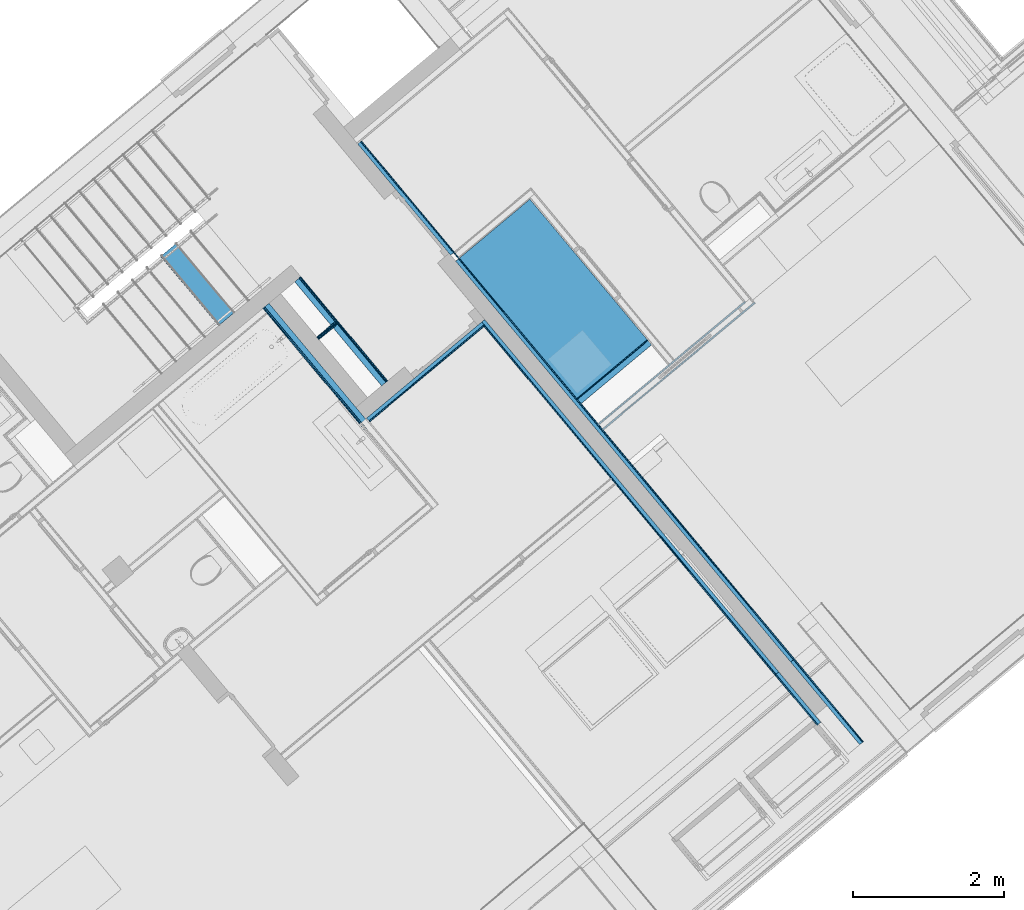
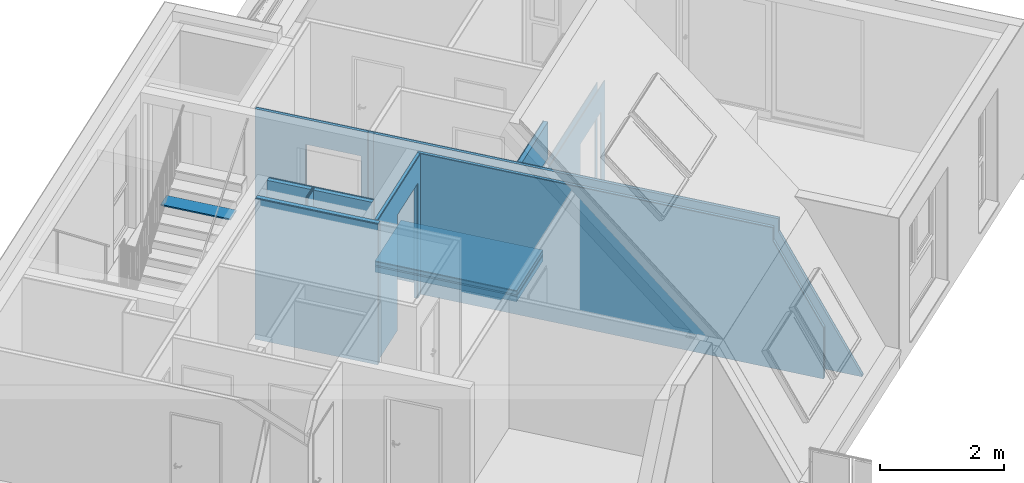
# One storey, part 29 of 61: 22 building element parts, 3 openings, 10 elements without a shape of their own, plus 2 elements that do not belong to this part.
"""IFC4 building model written with IfcOpenShell, lengths in metres."""

from ifc_helpers import new_model, entity, si_unit, converted_unit, derived_unit, direction, frame, origin_with_axes, place, context, subcontext, project, spatial, polygons, material, type_object, element, aggregate, save


model = new_model("IFC4")

# Units and contexts
model_context = context("Model", 3, precision=1e-05, world=origin_with_axes(), true_north=direction((0.0, 1.0)))
body_context = subcontext(model_context, "Body", "Model", "MODEL_VIEW")
ifc_project = project(units=[si_unit("LENGTHUNIT", "METRE"), si_unit("AREAUNIT", "SQUARE_METRE"), si_unit("VOLUMEUNIT", "CUBIC_METRE"), converted_unit("PLANEANGLEUNIT", "DEGREE", entity("IfcPlaneAngleMeasure", 0.0174532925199), si_unit("PLANEANGLEUNIT", "RADIAN"), dimensions=[0, 0, 0, 0, 0, 0, 0]), converted_unit("TIMEUNIT", "Year", entity("IfcTimeMeasure", 31556926.0), si_unit("TIMEUNIT", "SECOND"), dimensions=[0, 0, 1, 0, 0, 0, 0]), si_unit("MASSUNIT", "GRAM", prefix="KILO"), si_unit("THERMODYNAMICTEMPERATUREUNIT", "DEGREE_CELSIUS"), si_unit("LUMINOUSINTENSITYUNIT", "LUMEN"), si_unit("ENERGYUNIT", "JOULE", prefix="MEGA"), derived_unit("THERMALCONDUCTANCEUNIT", [(si_unit("POWERUNIT", "WATT"), 1), (si_unit("LENGTHUNIT", "METRE"), -1), (si_unit("THERMODYNAMICTEMPERATUREUNIT", "KELVIN"), -1)]), derived_unit("SPECIFICHEATCAPACITYUNIT", [(si_unit("ENERGYUNIT", "JOULE"), 1), (si_unit("MASSUNIT", "GRAM", prefix="KILO"), -1), (si_unit("THERMODYNAMICTEMPERATUREUNIT", "KELVIN"), -1)]), derived_unit("MASSDENSITYUNIT", [(si_unit("MASSUNIT", "GRAM", prefix="KILO"), 1), (si_unit("VOLUMEUNIT", "CUBIC_METRE"), -1)])], contexts=[model_context])

# Site, building, storey
site_placement = place(None, frame((-0.00153261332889, -0.00661245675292, 0.0), z_axis=(0.0, 0.0, 1.0), x_axis=(1.0, 0.0, 0.0)))
site = spatial("IfcSite", under=ifc_project, at=site_placement, Name="Gelände", CompositionType="ELEMENT")
building_placement = place(site_placement, origin_with_axes())
building = spatial("IfcBuilding", under=site, at=building_placement, Name="Gebäude", CompositionType="ELEMENT")
storey_placement = place(building_placement, frame((0.0, 0.0, 5.7), z_axis=(0.0, 0.0, 1.0), x_axis=(1.0, 0.0, 0.0)))
storey = spatial("IfcBuildingStorey", under=building, at=storey_placement, Name="DG1", CompositionType="ELEMENT", Elevation=5.7)

# Wall, building element parts
wall_type_1 = type_object("IfcWallType", Name="LB 10,5 cm doppelte Vorsatzschale Bad 105", PredefinedType="NOTDEFINED")
wall_1_placement = place(storey_placement, frame((0.371124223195, 22.44598682, 0.0), z_axis=(0.0, 0.0, 1.0), x_axis=(0.641209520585, -0.767365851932, 0.0)))
wall_1 = element("IfcWall", 1, at=wall_1_placement, inside=storey, type_object=wall_type_1, Name="Wand-004", PredefinedType="NOTDEFINED")
ifc_material_1 = material(Name="Mineralwolle weich")
building_element_part_1_placement = place(wall_1_placement, origin_with_axes())
building_element_part_1 = element("IfcBuildingElementPart", 2, at=building_element_part_1_placement, material=ifc_material_1, Name="Mineralwolle weich", PredefinedType="NOTDEFINED", context=body_context, shape_type="Tessellation", body=[
    polygons([(0.0, 0.0, 2.76), (0.0, -0.075, 2.76), (2.10114517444, -0.075, 2.76), (2.10114517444, 0.0, 2.76), (0.0, 0.0, 0.0), (0.0, -0.075, 0.0), (2.10114517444, -0.075, 0.0), (2.10114517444, 0.0, 0.0)], [[[1, 2, 3, 4]], [[5, 6, 2, 1]], [[2, 6, 7, 3]], [[8, 4, 3, 7]], [[5, 1, 4, 8]], [[6, 5, 8, 7]]], closed=True),
])
ifc_material_2 = material(Name="Gipskarton")
building_element_part_2_placement = place(wall_1_placement, origin_with_axes())
building_element_part_2 = element("IfcBuildingElementPart", 3, at=building_element_part_2_placement, material=ifc_material_2, Name="Gipskarton", PredefinedType="NOTDEFINED", context=body_context, shape_type="Tessellation", body=[
    polygons([(0.0, -0.075, 2.76), (0.0, -0.09, 2.76), (2.10114517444, -0.09, 2.76), (2.10114517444, -0.075, 2.76), (0.0, -0.075, 0.0), (0.0, -0.09, 0.0), (2.10114517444, -0.09, 0.0), (2.10114517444, -0.075, 0.0)], [[[1, 2, 3, 4]], [[5, 6, 2, 1]], [[2, 6, 7, 3]], [[8, 4, 3, 7]], [[5, 1, 4, 8]], [[6, 5, 8, 7]]], closed=True),
])
building_element_part_3_placement = place(wall_1_placement, origin_with_axes())
building_element_part_3 = element("IfcBuildingElementPart", 4, at=building_element_part_3_placement, material=ifc_material_2, Name="Gipskarton", PredefinedType="NOTDEFINED", context=body_context, shape_type="Tessellation", body=[
    polygons([(0.0, -0.09, 2.76), (0.0, -0.105, 2.76), (2.10114517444, -0.105, 2.76), (2.10114517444, -0.09, 2.76), (0.0, -0.09, 0.0), (0.0, -0.105, 0.0), (2.10114517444, -0.105, 0.0), (2.10114517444, -0.09, 0.0)], [[[1, 2, 3, 4]], [[5, 6, 2, 1]], [[2, 6, 7, 3]], [[8, 4, 3, 7]], [[5, 1, 4, 8]], [[6, 5, 8, 7]]], closed=True),
])
aggregate(wall_1, [building_element_part_1, building_element_part_2, building_element_part_3])

wall_type_2 = type_object("IfcWallType", Name="LB 9,0 cm einfache Vorsatzschale  90", PredefinedType="NOTDEFINED")
wall_2_placement = place(storey_placement, frame((4.51654083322, 21.1123791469, 0.0), z_axis=(0.0, 0.0, 1.0), x_axis=(0.767365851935, 0.641209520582, 0.0)))
wall_2 = element("IfcWall", 5, at=wall_2_placement, inside=storey, type_object=wall_type_2, Name="Wand-006", PredefinedType="NOTDEFINED")
building_element_part_4_placement = place(wall_2_placement, origin_with_axes())
building_element_part_4 = element("IfcBuildingElementPart", 6, at=building_element_part_4_placement, material=ifc_material_2, Name="Gipskarton", PredefinedType="NOTDEFINED", context=body_context, shape_type="Tessellation", body=[
    polygons([(1.21990157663, 0.075, 0.0), (-1.2954412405e-06, 0.075, 0.0), (-1.55452949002e-06, 0.09, 0.0), (1.21990157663, 0.09, 0.0), (1.21990157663, 0.075, 2.76), (-1.2954412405e-06, 0.075, 2.76), (-1.55452949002e-06, 0.09, 2.76), (1.21990157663, 0.09, 2.76)], [[[1, 2, 3, 4]], [[5, 6, 2, 1]], [[3, 2, 6, 7]], [[4, 3, 7, 8]], [[4, 8, 5, 1]], [[8, 7, 6, 5]]], closed=True),
])
building_element_part_5_placement = place(wall_2_placement, origin_with_axes())
building_element_part_5 = element("IfcBuildingElementPart", 7, at=building_element_part_5_placement, material=ifc_material_1, Name="Mineralwolle weich", PredefinedType="NOTDEFINED", context=body_context, shape_type="Tessellation", body=[
    polygons([(1.21990157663, 0.075, 0.0), (1.21990157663, 0.0, 0.0), (0.0, 0.0, 0.0), (-1.2954412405e-06, 0.075, 0.0), (1.21990157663, 0.075, 2.76), (1.21990157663, 0.0, 2.76), (0.0, 0.0, 2.76), (-1.2954412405e-06, 0.075, 2.76)], [[[1, 2, 3, 4]], [[2, 1, 5, 6]], [[2, 6, 7, 3]], [[8, 4, 3, 7]], [[5, 1, 4, 8]], [[6, 5, 8, 7]]], closed=True),
])
aggregate(wall_2, [building_element_part_4, building_element_part_5])

# Wall, opening, building element parts
wall_type_3 = type_object("IfcWallType", Name="IW LB 01 Leichtbautrennwand einfach 10,5 cm 105", PredefinedType="NOTDEFINED")
wall_3_placement = place(storey_placement, frame((4.80817361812, 20.7633806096, 0.0), z_axis=(0.0, 0.0, 1.0), x_axis=(0.767768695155, 0.640727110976, 0.0)))
wall_3 = element("IfcWall", 8, at=wall_3_placement, inside=storey, type_object=wall_type_3, Name="Wand-012", PredefinedType="NOTDEFINED")
opening_1_placement = place(wall_3_placement, frame((1.95916013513, 0.0, 0.22), z_axis=(0.0, 0.0, 1.0), x_axis=(1.0, 0.0, 0.0)))
element("IfcOpeningElement", 9, at=opening_1_placement, cuts=wall_3, Name="Tür-001", context=body_context, identifier="Reference", shape_type="Tessellation", body=[
    polygons([(-0.48, -1.29426735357, -0.22), (-0.48, -1.29426735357, 2.03), (-0.48, 1.39926735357, 2.03), (-0.48, 1.39926735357, -0.22), (-0.48, 0.09, 2.0), (-0.48, 0.015, 2.0), (-0.48, 0.015, 0.0), (-0.48, 0.09, 0.0), (0.48, -1.29426735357, -0.22), (0.48, -1.29426735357, 2.03), (0.48, 1.39926735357, 2.03), (0.48, 1.39926735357, -0.22), (-1.44, 0.09, 2.0), (-1.44, 0.015, 2.0), (-1.44, 0.015, 0.0), (-1.44, 0.09, 0.0)], [[[1, 2, 3, 4], [5, 6, 7, 8]], [[1, 9, 10, 2]], [[2, 10, 11, 3]], [[11, 12, 4, 3]], [[9, 1, 4, 12]], [[6, 5, 13, 14]], [[7, 6, 14, 15]], [[8, 7, 15, 16]], [[5, 8, 16, 13]], [[10, 9, 12, 11]], [[14, 13, 16, 15]]], closed=True),
])
building_element_part_6_placement = place(wall_3_placement, origin_with_axes())
building_element_part_6 = element("IfcBuildingElementPart", 10, at=building_element_part_6_placement, material=ifc_material_2, Name="Gipskarton", PredefinedType="NOTDEFINED", context=body_context, shape_type="Tessellation", body=[
    polygons([(1.47916013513, 0.09, 0.22), (1.47916013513, 0.09, 2.25), (2.43916013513, 0.09, 2.25), (2.43916013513, 0.09, 0.22), (2.43916011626, 0.09, 0.0), (2.53890847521, 0.09, 0.0), (2.53890847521, 0.09, 2.76), (-5.81187822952e-05, 0.09, 2.76), (-5.81187822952e-05, 0.09, 0.0), (1.47916013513, 0.09, 0.0), (1.47916013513, 0.104999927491, 0.22), (1.47916013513, 0.104999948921, 2.25), (2.43916013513, 0.104999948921, 2.25), (2.43916013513, 0.104999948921, 0.22), (2.43916011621, 0.104999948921, 0.0), (2.53889904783, 0.105, 0.0), (2.53889904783, 0.105, 2.76), (-6.78052460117e-05, 0.105, 2.76), (-6.78052460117e-05, 0.105, 0.0), (1.47916013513, 0.104999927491, 0.0)], [[[1, 2, 3, 4, 5, 6, 7, 8, 9, 10]], [[2, 1, 11, 12]], [[3, 2, 12, 13]], [[4, 3, 13, 14]], [[4, 14, 15, 5]], [[15, 16, 6, 5]], [[16, 17, 7, 6]], [[17, 18, 8, 7]], [[19, 9, 8, 18]], [[10, 9, 19, 20]], [[11, 1, 10, 20]], [[12, 11, 20, 19, 18, 17, 16, 15, 14, 13]]], closed=True),
])
building_element_part_7_placement = place(wall_3_placement, origin_with_axes())
building_element_part_7 = element("IfcBuildingElementPart", 11, at=building_element_part_7_placement, material=ifc_material_2, Name="Gipskarton", PredefinedType="NOTDEFINED", context=body_context, shape_type="Tessellation", body=[
    polygons([(1.47916013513, 0.0, 0.22), (1.47916013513, 0.0, 2.25), (2.43916013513, 0.0, 2.25), (2.43916013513, 0.0, 0.22), (2.43916011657, 0.0, 0.0), (2.62896505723, 0.0, 0.0), (2.62896505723, 0.0, 2.76), (0.0, 0.0, 2.76), (0.0, 0.0, 0.0), (1.47916013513, 0.0, 0.0), (1.47916013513, 0.015, 0.22), (1.47916013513, 0.015, 2.25), (2.43916013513, 0.015, 2.25), (2.43916013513, 0.015, 0.22), (2.43916011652, 0.015, 0.0), (2.62895562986, 0.015, 0.0), (2.62895562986, 0.015, 2.76), (-9.68646371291e-06, 0.015, 2.76), (-9.68646371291e-06, 0.015, 0.0), (1.47916013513, 0.015, 0.0)], [[[1, 2, 3, 4, 5, 6, 7, 8, 9, 10]], [[2, 1, 11, 12]], [[3, 2, 12, 13]], [[4, 3, 13, 14]], [[4, 14, 15, 5]], [[15, 16, 6, 5]], [[16, 17, 7, 6]], [[17, 18, 8, 7]], [[19, 9, 8, 18]], [[10, 9, 19, 20]], [[11, 1, 10, 20]], [[12, 11, 20, 19, 18, 17, 16, 15, 14, 13]]], closed=True),
])
aggregate(wall_3, [building_element_part_6, building_element_part_7])

wall_type_4 = type_object("IfcWallType", Name="LB 6,5 cm einfach Vorsatzschale 65", PredefinedType="NOTDEFINED")
wall_4_placement = place(storey_placement, frame((3.22700750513, 22.1386079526, 0.0), z_axis=(0.0, 0.0, 1.0), x_axis=(-0.767669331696, -0.64084615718, 0.0)))
wall_4 = element("IfcWall", 12, at=wall_4_placement, inside=storey, type_object=wall_type_4, Name="Wand-005", PredefinedType="NOTDEFINED")
opening_2_placement = place(wall_4_placement, frame((0.603737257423, 0.0, 0.22), z_axis=(0.0, 0.0, 1.0), x_axis=(1.0, 0.0, 0.0)))
element("IfcOpeningElement", 13, at=opening_2_placement, cuts=wall_4, Name="Tür-001", context=body_context, identifier="Reference", shape_type="Tessellation", body=[
    polygons([(-0.475, -1.03980321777, 2.05), (-0.475, -1.03980321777, -0.22), (0.475, -1.03980321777, -0.22), (0.475, -1.03980321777, 2.05), (-0.475, 0.974803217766, 2.05), (-0.475, 0.974803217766, -0.22), (0.475, 0.974803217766, -0.22), (0.475, 0.974803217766, 2.05)], [[[1, 2, 3, 4]], [[5, 6, 2, 1]], [[6, 7, 3, 2]], [[7, 8, 4, 3]], [[8, 5, 1, 4]], [[7, 6, 5, 8]]], closed=True),
])
building_element_part_8_placement = place(wall_4_placement, origin_with_axes())
building_element_part_8 = element("IfcBuildingElementPart", 14, at=building_element_part_8_placement, material=ifc_material_2, Name="Gipskarton", PredefinedType="NOTDEFINED", context=body_context, shape_type="Tessellation", body=[
    polygons([(1.07873725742, 0.0, 0.0), (1.07873725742, 0.0, 2.27), (0.128737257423, 0.0, 2.27), (0.128737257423, 0.0, 0.0), (0.0, 0.0, 0.0), (0.0, 0.0, 2.76), (1.97944404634, 0.0, 2.76), (1.97944404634, 0.0, 0.0), (1.07873725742, -0.015, 0.0), (1.07873725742, -0.015, 2.27), (0.128737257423, -0.015, 2.27), (0.128737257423, -0.015, 0.0), (-1.60318478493e-08, -0.015, 0.0), (-1.60318478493e-08, -0.015, 2.76), (1.97944404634, -0.015, 2.76), (1.97944404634, -0.015, 0.0)], [[[1, 2, 3, 4, 5, 6, 7, 8]], [[2, 1, 9, 10]], [[3, 2, 10, 11]], [[4, 3, 11, 12]], [[4, 12, 13, 5]], [[13, 14, 6, 5]], [[7, 6, 14, 15]], [[7, 15, 16, 8]], [[9, 1, 8, 16]], [[10, 9, 16, 15, 14, 13, 12, 11]]], closed=True),
])
building_element_part_9_placement = place(wall_4_placement, origin_with_axes())
building_element_part_9 = element("IfcBuildingElementPart", 15, at=building_element_part_9_placement, material=ifc_material_1, Name="Mineralwolle weich", PredefinedType="NOTDEFINED", context=body_context, shape_type="Tessellation", body=[
    polygons([(1.07873725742, -0.015, 0.0), (1.07873725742, -0.015, 2.27), (0.128737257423, -0.015, 2.27), (0.128737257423, -0.015, 0.0), (-0.0150000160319, -0.015, 0.0), (-0.0150000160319, -0.015, 2.76), (1.97944404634, -0.015, 2.76), (1.97944404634, -0.015, 0.0), (1.07873725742, -0.065, 0.0), (1.07873725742, -0.065, 2.27), (0.128737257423, -0.065, 2.27), (0.128737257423, -0.065, 0.0), (-0.0150000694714, -0.065, 0.0), (-0.0150000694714, -0.065, 2.76), (1.97944404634, -0.065, 2.76), (1.97944404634, -0.065, 0.0)], [[[1, 2, 3, 4, 5, 6, 7, 8]], [[2, 1, 9, 10]], [[3, 2, 10, 11]], [[4, 3, 11, 12]], [[4, 12, 13, 5]], [[13, 14, 6, 5]], [[7, 6, 14, 15]], [[7, 15, 16, 8]], [[9, 1, 8, 16]], [[10, 9, 16, 15, 14, 13, 12, 11]]], closed=True),
])
aggregate(wall_4, [building_element_part_8, building_element_part_9])

# Wall, building element parts
wall_type_5 = type_object("IfcWallType", Name="LB Dreifach Vorsatzschale Schacht 45", PredefinedType="NOTDEFINED")
wall_5_placement = place(storey_placement, frame((1.03476523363, 21.9638652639, 0.0), z_axis=(0.0, 0.0, 1.0), x_axis=(0.767670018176, 0.640845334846, 0.0)))
wall_5 = element("IfcWall", 16, at=wall_5_placement, inside=storey, type_object=wall_type_5, Name="Wand-002", PredefinedType="NOTDEFINED")
building_element_part_10_placement = place(wall_5_placement, origin_with_axes())
building_element_part_10 = element("IfcBuildingElementPart", 17, at=building_element_part_10_placement, material=ifc_material_2, Name="Gipskarton", PredefinedType="NOTDEFINED", context=body_context, shape_type="Tessellation", body=[
    polygons([(0.320121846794, 0.03, 0.0), (0.0, 0.03, 0.0), (0.0, 0.045, 0.0), (0.320121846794, 0.045, 0.0), (0.320121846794, 0.03, 2.76), (0.0, 0.03, 2.76), (0.0, 0.045, 2.76), (0.320121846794, 0.045, 2.76)], [[[1, 2, 3, 4]], [[5, 6, 2, 1]], [[3, 2, 6, 7]], [[4, 3, 7, 8]], [[4, 8, 5, 1]], [[8, 7, 6, 5]]], closed=True),
])
building_element_part_11_placement = place(wall_5_placement, origin_with_axes())
building_element_part_11 = element("IfcBuildingElementPart", 18, at=building_element_part_11_placement, material=ifc_material_2, Name="Gipskarton", PredefinedType="NOTDEFINED", context=body_context, shape_type="Tessellation", body=[
    polygons([(0.320121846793, 0.015, 0.0), (0.0, 0.015, 0.0), (0.0, 0.03, 0.0), (0.320121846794, 0.03, 0.0), (0.320121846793, 0.015, 2.76), (0.0, 0.015, 2.76), (0.0, 0.03, 2.76), (0.320121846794, 0.03, 2.76)], [[[1, 2, 3, 4]], [[5, 6, 2, 1]], [[3, 2, 6, 7]], [[4, 3, 7, 8]], [[4, 8, 5, 1]], [[8, 7, 6, 5]]], closed=True),
])
building_element_part_12_placement = place(wall_5_placement, origin_with_axes())
building_element_part_12 = element("IfcBuildingElementPart", 19, at=building_element_part_12_placement, material=ifc_material_2, Name="Gipskarton", PredefinedType="NOTDEFINED", context=body_context, shape_type="Tessellation", body=[
    polygons([(0.320121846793, 0.0, 0.0), (0.0, 0.0, 0.0), (0.0, 0.015, 0.0), (0.320121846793, 0.015, 0.0), (0.320121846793, 0.0, 2.76), (0.0, 0.0, 2.76), (0.0, 0.015, 2.76), (0.320121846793, 0.015, 2.76)], [[[1, 2, 3, 4]], [[5, 6, 2, 1]], [[3, 2, 6, 7]], [[4, 3, 7, 8]], [[4, 8, 5, 1]], [[8, 7, 6, 5]]], closed=True),
])
aggregate(wall_5, [building_element_part_10, building_element_part_11, building_element_part_12])

wall_6_placement = place(storey_placement, frame((3.22700750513, 22.1386079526, 0.0), z_axis=(0.0, 0.0, 1.0), x_axis=(0.640845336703, -0.767670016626, 0.0)))
wall_6 = element("IfcWall", 20, at=wall_6_placement, inside=storey, type_object=wall_type_4, Name="Wand-005", PredefinedType="NOTDEFINED")
building_element_part_13_placement = place(wall_6_placement, origin_with_axes())
building_element_part_13 = element("IfcBuildingElementPart", 21, at=building_element_part_13_placement, material=ifc_material_1, Name="Mineralwolle weich", PredefinedType="NOTDEFINED", context=body_context, shape_type="Tessellation", body=[
    polygons([(6.03135542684, 0.065, 2.76), (6.03135542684, 0.065, 2.5082540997), (6.90221355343, 0.065, 0.999884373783), (6.90221355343, 0.065, 0.0), (-0.0650000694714, 0.065, 0.0), (-0.0650000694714, 0.065, 2.76), (6.03140473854, 0.015, 2.76), (6.03140473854, 0.015, 2.50825763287), (6.90221355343, 0.015, 0.999973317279), (6.90221355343, 0.015, 0.0), (-0.0650000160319, 0.015, 0.0), (-0.0650000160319, 0.015, 2.76)], [[[1, 2, 3, 4, 5, 6]], [[2, 1, 7, 8]], [[9, 3, 2, 8]], [[3, 9, 10, 4]], [[10, 11, 5, 4]], [[6, 5, 11, 12]], [[7, 1, 6, 12]], [[8, 7, 12, 11, 10, 9]]], closed=True),
])
building_element_part_14_placement = place(wall_6_placement, origin_with_axes())
building_element_part_14 = element("IfcBuildingElementPart", 22, at=building_element_part_14_placement, material=ifc_material_2, Name="Gipskarton", PredefinedType="NOTDEFINED", context=body_context, shape_type="Tessellation", body=[
    polygons([(6.03140473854, 0.015, 2.76), (6.03140473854, 0.015, 2.50825763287), (6.90221355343, 0.015, 0.999973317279), (6.90221355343, 0.015, 0.0), (-0.0150000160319, 0.015, 0.0), (-0.0150000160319, 0.015, 2.76), (6.03141953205, 0.0, 2.76), (6.03141953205, 0.0, 2.50825869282), (6.90221355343, 0.0, 1.00000000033), (6.90221355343, 0.0, 0.0), (-0.015, 0.0, 0.0), (-0.015, 0.0, 2.76)], [[[1, 2, 3, 4, 5, 6]], [[2, 1, 7, 8]], [[9, 3, 2, 8]], [[3, 9, 10, 4]], [[10, 11, 5, 4]], [[6, 5, 11, 12]], [[7, 1, 6, 12]], [[8, 7, 12, 11, 10, 9]]], closed=True),
])
aggregate(wall_6, [building_element_part_13, building_element_part_14])

wall_7_placement = place(storey_placement, frame((0.71304114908, 22.7317569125, 0.0), z_axis=(0.0, 0.0, 1.0), x_axis=(0.640845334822, -0.767670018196, 0.0)))
wall_7 = element("IfcWall", 23, at=wall_7_placement, inside=storey, type_object=wall_type_1, Name="Wand-004", PredefinedType="NOTDEFINED")
building_element_part_15_placement = place(wall_7_placement, origin_with_axes())
building_element_part_15 = element("IfcBuildingElementPart", 24, at=building_element_part_15_placement, material=ifc_material_2, Name="Gipskarton", PredefinedType="NOTDEFINED", context=body_context, shape_type="Tessellation", body=[
    polygons([(1.80140621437, 0.09, 0.0), (0.0, 0.09, 0.0), (0.0, 0.105, 0.0), (1.80140621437, 0.105, 0.0), (1.80140621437, 0.09, 2.76), (0.0, 0.09, 2.76), (0.0, 0.105, 2.76), (1.80140621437, 0.105, 2.76)], [[[1, 2, 3, 4]], [[5, 6, 2, 1]], [[3, 2, 6, 7]], [[4, 3, 7, 8]], [[4, 8, 5, 1]], [[8, 7, 6, 5]]], closed=True),
])
building_element_part_16_placement = place(wall_7_placement, origin_with_axes())
building_element_part_16 = element("IfcBuildingElementPart", 25, at=building_element_part_16_placement, material=ifc_material_2, Name="Gipskarton", PredefinedType="NOTDEFINED", context=body_context, shape_type="Tessellation", body=[
    polygons([(1.80140621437, 0.075, 0.0), (0.0, 0.075, 0.0), (0.0, 0.09, 0.0), (1.80140621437, 0.09, 0.0), (1.80140621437, 0.075, 2.76), (0.0, 0.075, 2.76), (0.0, 0.09, 2.76), (1.80140621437, 0.09, 2.76)], [[[1, 2, 3, 4]], [[5, 6, 2, 1]], [[3, 2, 6, 7]], [[4, 3, 7, 8]], [[4, 8, 5, 1]], [[8, 7, 6, 5]]], closed=True),
])
building_element_part_17_placement = place(wall_7_placement, origin_with_axes())
building_element_part_17 = element("IfcBuildingElementPart", 26, at=building_element_part_17_placement, material=ifc_material_1, Name="Mineralwolle weich", PredefinedType="NOTDEFINED", context=body_context, shape_type="Tessellation", body=[
    polygons([(0.750662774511, 0.075, 0.0), (0.750662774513, 0.0, 0.0), (0.0, 0.0, 0.0), (0.0, 0.075, 0.0), (0.750662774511, 0.075, 2.76), (0.750662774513, 0.0, 2.76), (0.0, 0.0, 2.76), (0.0, 0.075, 2.76)], [[[1, 2, 3, 4]], [[2, 1, 5, 6]], [[2, 6, 7, 3]], [[8, 4, 3, 7]], [[5, 1, 4, 8]], [[6, 5, 8, 7]]], closed=True),
    polygons([(1.80140621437, 0.075, 0.0), (1.80140621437, 0.0, 0.0), (0.795662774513, 0.0, 0.0), (0.795662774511, 0.075, 0.0), (1.80140621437, 0.075, 2.76), (1.80140621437, 0.0, 2.76), (0.795662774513, 0.0, 2.76), (0.795662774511, 0.075, 2.76)], [[[1, 2, 3, 4]], [[2, 1, 5, 6]], [[2, 6, 7, 3]], [[8, 4, 3, 7]], [[5, 1, 4, 8]], [[6, 5, 8, 7]]], closed=True),
])
aggregate(wall_7, [building_element_part_15, building_element_part_16, building_element_part_17])

# Space
space_1_placement = place(storey_placement, frame((0.280300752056, 22.6307267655, 0.22), z_axis=(0.0, 0.0, 1.0), x_axis=(-0.641244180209, 0.767336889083, 0.0)))
space_1 = spatial("IfcSpace", under=storey, at=space_1_placement, CompositionType="ELEMENT", PredefinedType="NOTDEFINED")

# Stair, building element part
stair_type = type_object("IfcStairType", Name="Treppentyp", PredefinedType="NOTDEFINED")
stair_placement = place(space_1_placement, frame((2.55980055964, -0.50704333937, -0.17), z_axis=(0.0, 0.0, 1.0), x_axis=(-0.641244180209, -0.767336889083, 0.0)))
stair = element("IfcStair", 27, at=stair_placement, inside=space_1, type_object=stair_type, Name="Treppe - 001", PredefinedType="NOTDEFINED")
ifc_material_3 = material(Name="BEKLEIDUNG")
building_element_part_18_placement = place(stair_placement, origin_with_axes())
building_element_part_18 = element("IfcBuildingElementPart", 28, at=building_element_part_18_placement, material=ifc_material_3, Name="BEKLEIDUNG", PredefinedType="NOTDEFINED", context=body_context, shape_type="Tessellation", body=[
    polygons([(-0.0964830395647, -1.85268773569, 2.63088235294), (0.672968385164, -2.77352675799, 2.63088235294), (0.672968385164, -2.77352675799, 2.65588235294), (-0.0964830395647, -1.85268773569, 2.65588235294), (0.115839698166, -1.67527123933, 2.63088235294), (0.885291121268, -2.59611026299, 2.63088235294), (0.885291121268, -2.59611026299, 2.65588235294), (0.115839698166, -1.67527123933, 2.65588235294)], [[[1, 2, 3, 4]], [[1, 5, 6, 2]], [[2, 6, 7, 3]], [[4, 3, 7, 8]], [[5, 1, 4, 8]], [[6, 5, 8, 7]]], closed=True),
])
aggregate(stair, [building_element_part_18])

# Space
space_2_placement = place(storey_placement, frame((2.89957040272, 23.0457904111, 0.22), z_axis=(0.0, 0.0, 1.0), x_axis=(0.640845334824, -0.767670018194, 0.0)))
space_2 = spatial("IfcSpace", under=storey, at=space_2_placement, CompositionType="ELEMENT", PredefinedType="NOTDEFINED")

# Wall, opening, building element parts
wall_8_placement = place(space_2_placement, frame((-2.12019097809, 0.0, -0.22), z_axis=(0.0, 0.0, 1.0), x_axis=(0.999999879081, 0.000491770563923, 0.0)))
wall_8 = element("IfcWall", 29, at=wall_8_placement, inside=space_2, type_object=wall_type_4, Name="Wand-005", PredefinedType="NOTDEFINED")
opening_3_placement = place(wall_8_placement, frame((1.42988718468, 0.0, 0.22), z_axis=(0.0, 0.0, 1.0), x_axis=(1.0, 0.0, 0.0)))
element("IfcOpeningElement", 30, at=opening_3_placement, cuts=wall_8, Name="Tür-001", context=body_context, identifier="Reference", shape_type="Tessellation", body=[
    polygons([(-0.475, -5.22658911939, 2.05), (-0.475, -5.22658911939, -0.22), (0.475, -5.22658911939, -0.22), (0.475, -5.22658911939, 2.05), (-0.475, 5.16158911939, 2.05), (-0.475, 5.16158911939, -0.22), (0.475, 5.16158911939, -0.22), (0.475, 5.16158911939, 2.05)], [[[1, 2, 3, 4]], [[5, 6, 2, 1]], [[6, 7, 3, 2]], [[7, 8, 4, 3]], [[8, 5, 1, 4]], [[7, 6, 5, 8]]], closed=True),
])
building_element_part_19_placement = place(wall_8_placement, origin_with_axes())
building_element_part_19 = element("IfcBuildingElementPart", 31, at=building_element_part_19_placement, material=ifc_material_2, Name="Gipskarton", PredefinedType="NOTDEFINED", context=body_context, shape_type="Tessellation", body=[
    polygons([(0.954887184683, 0.0, 2.27), (0.954887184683, 0.0, 0.22), (0.954887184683, 0.0, 0.0), (0.09, 0.0, 0.0), (0.09, 0.0, 2.76), (9.05752407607, 0.0, 2.76), (9.05752407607, 0.0, 2.5082540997), (10.4880353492, 0.0, 0.030536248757), (10.4880353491, 0.0, 0.0), (1.90488718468, 0.0, 0.0), (1.90488718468, 0.0, 0.22), (1.90488718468, 0.0, 2.27), (0.954887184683, -0.015, 2.27), (0.954887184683, -0.015, 0.0), (0.954887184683, -0.000469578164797, 0.0), (0.954887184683, -0.000469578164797, 0.22), (0.09, -0.015, 0.0), (0.09, -0.015, 2.76), (9.05753149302, -0.015, 2.76), (9.05753149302, -0.015, 2.50825515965), (10.4880353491, -0.015, 0.0305501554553), (10.4880353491, -0.015, 0.0), (1.90488718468, -0.015, 0.0), (1.90488718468, -0.015, 0.22), (1.90488718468, -0.015, 2.27)], [[[1, 2, 3, 4, 5, 6, 7, 8, 9, 10, 11, 12]], [[2, 1, 13, 14, 15, 16]], [[16, 15, 3, 2]], [[15, 14, 17, 4, 3]], [[17, 18, 5, 4]], [[6, 5, 18, 19]], [[6, 19, 20, 7]], [[8, 7, 20, 21]], [[21, 22, 9, 8]], [[9, 22, 23, 10]], [[24, 11, 10, 23]], [[12, 11, 24, 25]], [[1, 12, 25, 13]], [[25, 24, 23, 22, 21, 20, 19, 18, 17, 14, 13]]], closed=True),
])
building_element_part_20_placement = place(wall_8_placement, origin_with_axes())
building_element_part_20 = element("IfcBuildingElementPart", 32, at=building_element_part_20_placement, material=ifc_material_1, Name="Mineralwolle weich", PredefinedType="NOTDEFINED", context=body_context, shape_type="Tessellation", body=[
    polygons([(0.954887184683, -0.015, 2.27), (0.954887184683, -0.015, 0.0), (0.09, -0.015, 0.0), (0.09, -0.015, 2.76), (2.01519048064, -0.015, 2.76), (2.01519048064, -0.015, 0.0), (1.90896840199, -0.015, 0.0), (1.90896840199, -0.015, 0.22), (1.90488718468, -0.015, 0.22), (1.90488718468, -0.015, 2.27), (0.954887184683, -0.065, 2.27), (0.954887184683, -0.065, 0.0), (0.09, -0.065, 0.0), (0.09, -0.065, 2.76), (2.01518961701, -0.065, 2.76), (2.01518961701, -0.065, 0.0), (1.90894382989, -0.065, 0.0), (1.90894382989, -0.065, 0.22), (1.90488718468, -0.065, 0.22), (1.90488718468, -0.065, 2.27)], [[[1, 2, 3, 4, 5, 6, 7, 8, 9, 10]], [[2, 1, 11, 12]], [[2, 12, 13, 3]], [[3, 13, 14, 4]], [[5, 4, 14, 15]], [[6, 5, 15, 16]], [[7, 6, 16, 17]], [[8, 7, 17, 18]], [[19, 9, 8, 18]], [[10, 9, 19, 20]], [[1, 10, 20, 11]], [[20, 19, 18, 17, 16, 15, 14, 13, 12, 11]]], closed=True),
    polygons([(9.05753149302, -0.015, 2.76), (9.05753149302, -0.015, 2.50825515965), (10.4880353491, -0.015, 0.0305501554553), (10.4880353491, -0.015, 0.0), (2.12019048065, -0.015, 0.0), (2.12019048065, -0.015, 2.76), (9.05755621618, -0.065, 2.76), (9.05755621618, -0.065, 2.50825869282), (10.4880353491, -0.065, 0.0305965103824), (10.4880353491, -0.065, 0.0), (2.12018961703, -0.065, 0.0), (2.12018961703, -0.065, 2.76)], [[[1, 2, 3, 4, 5, 6]], [[2, 1, 7, 8]], [[9, 3, 2, 8]], [[3, 9, 10, 4]], [[4, 10, 11, 5]], [[5, 11, 12, 6]], [[7, 1, 6, 12]], [[8, 7, 12, 11, 10, 9]]], closed=True),
])
aggregate(wall_8, [building_element_part_19, building_element_part_20])

# Covering, building element parts
covering_type = type_object("IfcCoveringType", Name="DE 01 Decke Wohnung/Wohnung Fließen 220", PredefinedType="NOTDEFINED")
covering_placement = place(storey_placement, frame((2.89957040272, 23.0457904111, 0.22), z_axis=(0.0, 0.0, 1.0), x_axis=(1.0, 0.0, 0.0)))
covering = element("IfcCovering", 33, at=covering_placement, inside=storey, type_object=covering_type, Name="Decke-001", PredefinedType="NOTDEFINED")
ifc_material_4 = material(Name="Fliesen")
building_element_part_21_placement = place(covering_placement, origin_with_axes())
building_element_part_21 = element("IfcBuildingElementPart", 34, at=building_element_part_21_placement, material=ifc_material_4, Name="Fliesen", PredefinedType="NOTDEFINED", context=body_context, shape_type="Tessellation", body=[
    polygons([(0.000800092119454, 0.000668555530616, 0.0), (1.55926038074, -1.86434933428, 0.0), (2.49537238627, -1.0821358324, 0.0), (0.936944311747, 0.782908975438, 0.0), (1.55926038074, -1.86434933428, -0.015), (0.000800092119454, 0.000668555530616, -0.015), (2.49537238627, -1.0821358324, -0.015), (0.936944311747, 0.782908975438, -0.015)], [[[1, 2, 3, 4]], [[5, 2, 1, 6]], [[2, 5, 7, 3]], [[7, 8, 4, 3]], [[6, 1, 4, 8]], [[5, 6, 8, 7]]], closed=True),
])
ifc_material_5 = material(Name="Estrich")
building_element_part_22_placement = place(covering_placement, origin_with_axes())
building_element_part_22 = element("IfcBuildingElementPart", 35, at=building_element_part_22_placement, material=ifc_material_5, Name="Estrich", PredefinedType="NOTDEFINED", context=body_context, shape_type="Tessellation", body=[
    polygons([(0.000800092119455, 0.000668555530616, -0.015), (1.55926038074, -1.86434933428, -0.015), (2.49537238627, -1.0821358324, -0.015), (0.936944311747, 0.782908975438, -0.015), (1.55926038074, -1.86434933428, -0.08), (0.000800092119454, 0.000668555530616, -0.08), (2.49537238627, -1.0821358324, -0.08), (0.936944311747, 0.782908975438, -0.08)], [[[1, 2, 3, 4]], [[5, 2, 1, 6]], [[2, 5, 7, 3]], [[7, 8, 4, 3]], [[6, 1, 4, 8]], [[5, 6, 8, 7]]], closed=True),
])
ifc_material_6 = material(Name="Trittschalldämmung")
building_element_part_23_placement = place(covering_placement, origin_with_axes())
building_element_part_23 = element("IfcBuildingElementPart", 36, at=building_element_part_23_placement, material=ifc_material_6, Name="Trittschalldämmung", PredefinedType="NOTDEFINED", context=body_context, shape_type="Tessellation", body=[
    polygons([(0.000800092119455, 0.000668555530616, -0.08), (1.55926038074, -1.86434933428, -0.08), (2.49537238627, -1.0821358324, -0.08), (0.936944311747, 0.782908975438, -0.08), (1.55926038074, -1.86434933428, -0.11), (0.000800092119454, 0.000668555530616, -0.11), (2.49537238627, -1.0821358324, -0.11), (0.936944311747, 0.782908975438, -0.11)], [[[1, 2, 3, 4]], [[5, 2, 1, 6]], [[2, 5, 7, 3]], [[7, 8, 4, 3]], [[6, 1, 4, 8]], [[5, 6, 8, 7]]], closed=True),
])
ifc_material_7 = material(Name="Schüttung")
building_element_part_24_placement = place(covering_placement, origin_with_axes())
building_element_part_24 = element("IfcBuildingElementPart", 37, at=building_element_part_24_placement, material=ifc_material_7, Name="Schüttung", PredefinedType="NOTDEFINED", context=body_context, shape_type="Tessellation", body=[
    polygons([(0.000800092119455, 0.000668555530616, -0.11), (1.55926038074, -1.86434933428, -0.11), (2.49537238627, -1.0821358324, -0.11), (0.936944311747, 0.782908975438, -0.11), (1.55926038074, -1.86434933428, -0.22), (0.000800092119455, 0.000668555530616, -0.22), (2.49537238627, -1.0821358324, -0.22), (0.936944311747, 0.782908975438, -0.22)], [[[1, 2, 3, 4]], [[5, 2, 1, 6]], [[2, 5, 7, 3]], [[3, 7, 8, 4]], [[6, 1, 4, 8]], [[5, 6, 8, 7]]], closed=True),
])
aggregate(covering, [building_element_part_21, building_element_part_22, building_element_part_23, building_element_part_24])

save(model, "model.ifc")
